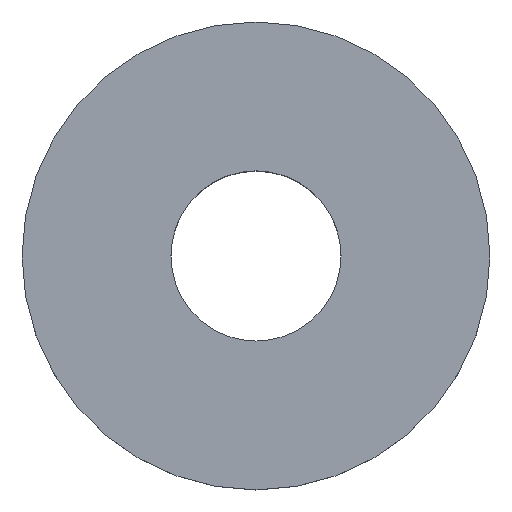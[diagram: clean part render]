
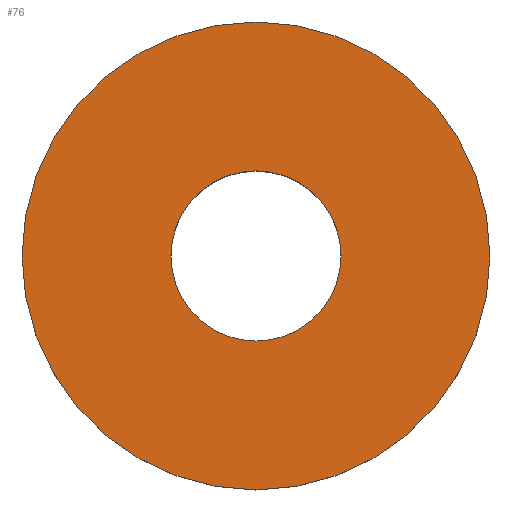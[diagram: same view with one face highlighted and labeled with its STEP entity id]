
A CAD part, top view. The second image highlights one B-rep face of the part: STEP entity #76.
In plain terms, the highlighted planar face has unit normal (0, 0, 1).
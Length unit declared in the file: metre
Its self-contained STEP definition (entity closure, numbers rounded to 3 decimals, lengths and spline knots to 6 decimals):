
#13=PLANE('',#101);
#23=ORIENTED_EDGE('',*,*,#31,.T.);
#24=ORIENTED_EDGE('',*,*,#28,.F.);
#28=EDGE_CURVE('',#34,#34,#40,.T.);
#31=EDGE_CURVE('',#37,#37,#43,.T.);
#34=VERTEX_POINT('',#134);
#37=VERTEX_POINT('',#143);
#40=CIRCLE('',#93,0.004);
#43=CIRCLE('',#99,0.011);
#53=EDGE_LOOP('',(#23));
#54=EDGE_LOOP('',(#24));
#65=FACE_BOUND('',#53,.T.);
#66=FACE_BOUND('',#54,.T.);
#76=ADVANCED_FACE('',(#65,#66),#13,.T.);
#93=AXIS2_PLACEMENT_3D('',#133,#109,#110);
#99=AXIS2_PLACEMENT_3D('',#142,#121,#122);
#101=AXIS2_PLACEMENT_3D('',#146,#125,#126);
#109=DIRECTION('',(0.,0.,1.));
#110=DIRECTION('',(1.,0.,0.));
#121=DIRECTION('',(0.,0.,1.));
#122=DIRECTION('',(1.,0.,0.));
#125=DIRECTION('',(0.,0.,1.));
#126=DIRECTION('',(1.,0.,0.));
#133=CARTESIAN_POINT('',(0.,0.,0.009));
#134=CARTESIAN_POINT('',(0.004,0.,0.009));
#142=CARTESIAN_POINT('',(0.,0.,0.009));
#143=CARTESIAN_POINT('',(0.011,0.,0.009));
#146=CARTESIAN_POINT('',(0.,0.,0.009));
